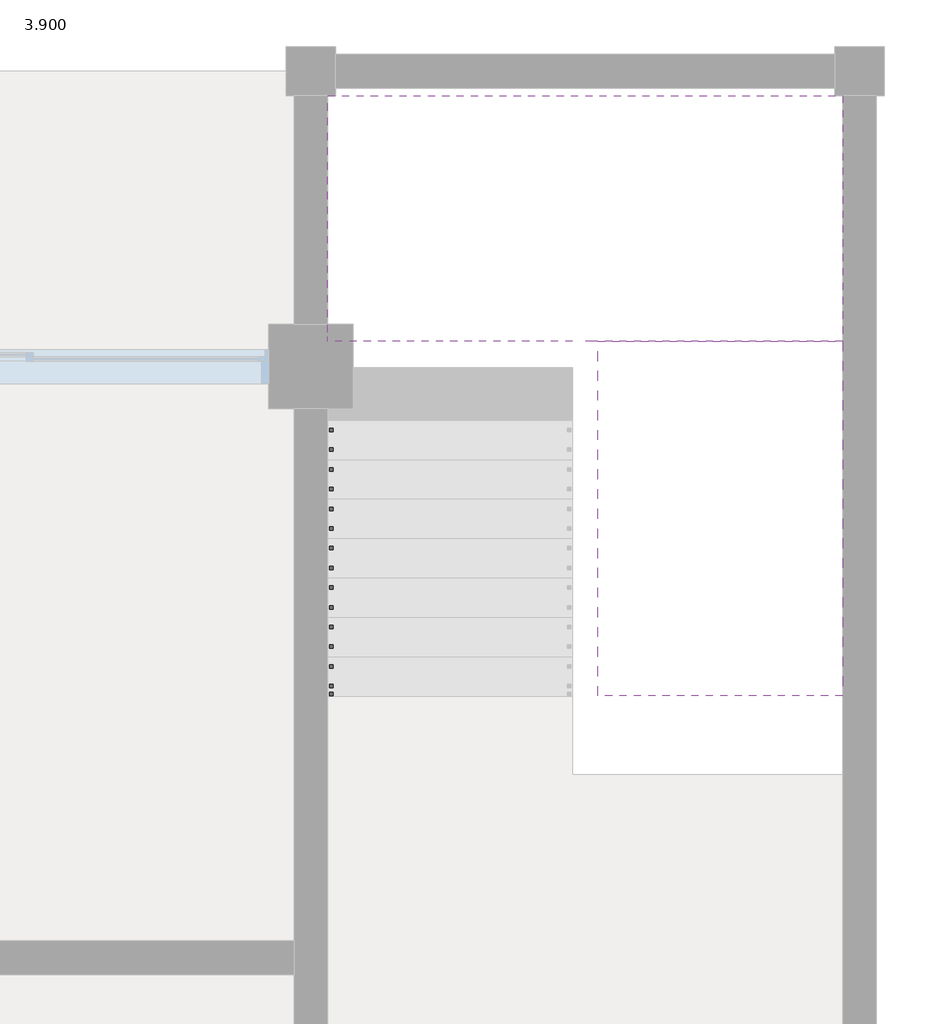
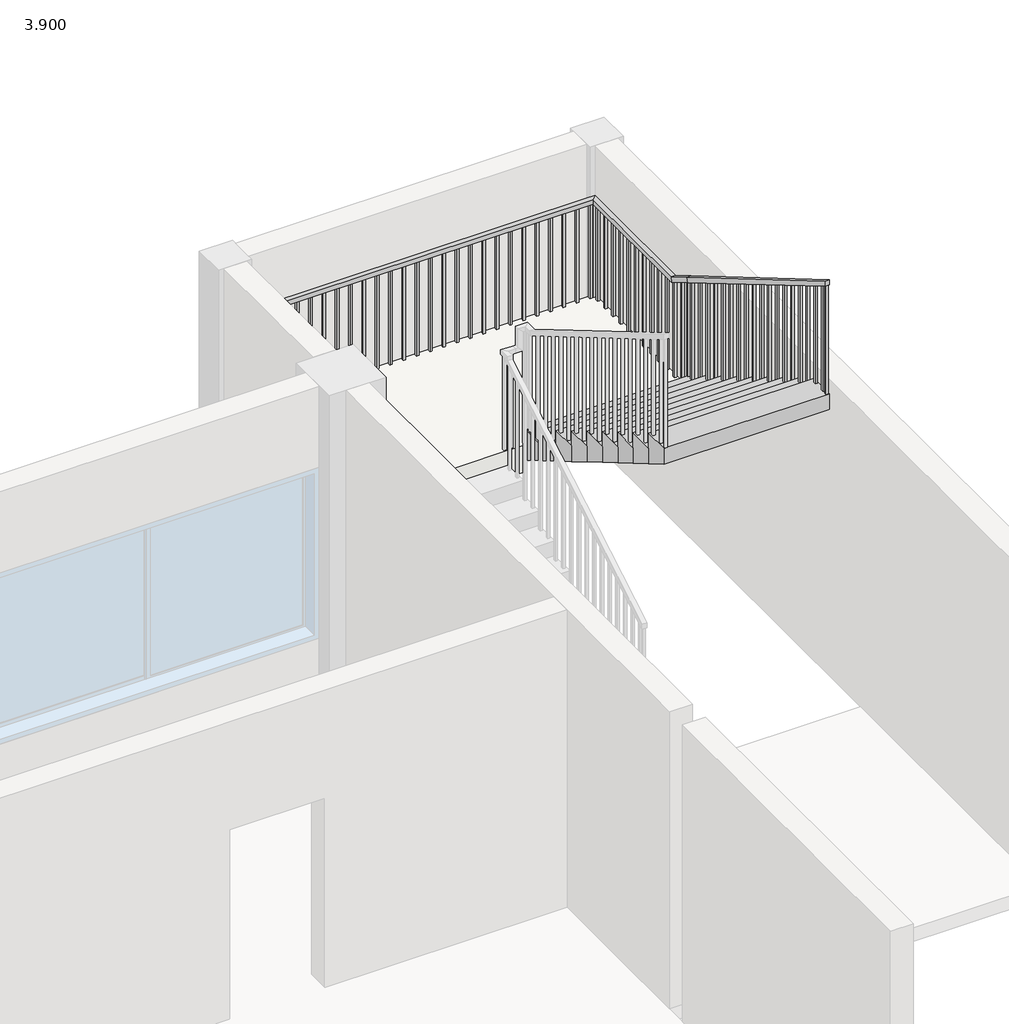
# One storey, part 4 of 4: 1 railing, 1 slab, 1 stair flight.
"""IFC4 building model written with IfcOpenShell, lengths in millimetres."""

from ifc_helpers import new_model, si_unit, frame, origin, place, context, project, spatial, polyline, outline, extrude, faceted_brep, element, save

model = new_model("IFC4")

# Units and contexts
model_context = context("Model", 3, world=origin())
ifc_project = project(units=[si_unit("LENGTHUNIT", "METRE", prefix="MILLI")], contexts=[model_context])

# Site, building, storey
site = spatial("IfcSite", under=ifc_project)
building = spatial("IfcBuilding", under=site)
storey = spatial("IfcBuildingStorey", under=building, Name="3.900", Elevation=3900.0)

# Railing
placement = place(None, origin())
element("IfcRailing", 1, ObjectType="1100mm", at=placement, inside=storey, context=model_context, shape_type="SolidModel", body=[
    faceted_brep([(43253.3890344, 3176.6095817, 5165.0), (43253.3890344, 3176.6095817, 5106.9642857), (43303.3890344, 3176.6095817, 5106.9642857), (43303.3890344, 3176.6095817, 5165.0), (43253.3890344, 5696.6095817, 6650.0), (43253.3890344, 5710.2459454, 6600.0), (43303.3890344, 5710.2459454, 6600.0), (43303.3890344, 5696.6095817, 6650.0), (43253.3890344, 7441.2095817, 6650.0), (43253.3890344, 7441.2095817, 6600.0), (43303.3890344, 7391.2095817, 6600.0), (43303.3890344, 7391.2095817, 6650.0), (46912.5890344, 7441.2095817, 6650.0), (46912.5890344, 7441.2095817, 6600.0), (46862.5890344, 7391.2095817, 6600.0), (46862.5890344, 7391.2095817, 6650.0), (46912.5890344, 5976.6095817, 6650.0), (46912.5890344, 5962.9732181, 6600.0), (46862.5890344, 5962.9732181, 6600.0), (46862.5890344, 5976.6095817, 6650.0), (46912.5890344, 5696.6095817, 6815.0), (46912.5890344, 5671.2249664, 6771.9230769), (46862.5890344, 5671.2249664, 6771.9230769), (46862.5890344, 5696.6095817, 6815.0), (46912.5890344, 3176.6095817, 8300.0), (46862.5890344, 3176.6095817, 8300.0), (46862.5890344, 3176.6095817, 8241.9642857), (46912.5890344, 3176.6095817, 8241.9642857)], [[[0, 1, 2, 3]], [[1, 0, 4, 5]], [[2, 1, 5, 6]], [[3, 2, 6, 7]], [[0, 3, 7, 4]], [[5, 4, 8, 9]], [[6, 5, 9, 10]], [[7, 6, 10, 11]], [[4, 7, 11, 8]], [[9, 8, 12, 13]], [[10, 9, 13, 14]], [[11, 10, 14, 15]], [[8, 11, 15, 12]], [[13, 12, 16, 17]], [[14, 13, 17, 18]], [[15, 14, 18, 19]], [[12, 15, 19, 16]], [[17, 16, 20, 21]], [[18, 17, 21, 22]], [[19, 18, 22, 23]], [[16, 19, 23, 20]], [[24, 25, 26, 27]], [[21, 20, 24, 27]], [[22, 21, 27, 26]], [[23, 22, 26, 25]], [[20, 23, 25, 24]]]),
    extrude(outline(polyline([(3259.1095817, 7035.0), (3234.1095817, 7035.0), (3234.1095817, 8208.0803571), (3259.1095817, 8193.3482143), (3259.1095817, 7035.0)])), frame((46875.0890344, 0.0, 0.0), z_axis=(1.0, 0.0, 0.0), x_axis=(0.0, 1.0, 0.0)), (0.0, 0.0, 1.0), 25.0),
    extrude(outline(polyline([(3399.1095817, 7035.0), (3374.1095817, 7035.0), (3374.1095817, 8125.5803571), (3399.1095817, 8110.8482143), (3399.1095817, 7035.0)])), frame((46875.0890344, 0.0, 0.0), z_axis=(1.0, 0.0, 0.0), x_axis=(0.0, 1.0, 0.0)), (0.0, 0.0, 1.0), 25.0),
    extrude(outline(polyline([(3539.1095817, 6870.0), (3514.1095817, 6870.0), (3514.1095817, 8043.0803571), (3539.1095817, 8028.3482143), (3539.1095817, 6870.0)])), frame((46875.0890344, 0.0, 0.0), z_axis=(1.0, 0.0, 0.0), x_axis=(0.0, 1.0, 0.0)), (0.0, 0.0, 1.0), 25.0),
    extrude(outline(polyline([(3679.1095817, 6870.0), (3654.1095817, 6870.0), (3654.1095817, 7960.5803571), (3679.1095817, 7945.8482143), (3679.1095817, 6870.0)])), frame((46875.0890344, 0.0, 0.0), z_axis=(1.0, 0.0, 0.0), x_axis=(0.0, 1.0, 0.0)), (0.0, 0.0, 1.0), 25.0),
    extrude(outline(polyline([(3819.1095817, 6705.0), (3794.1095817, 6705.0), (3794.1095817, 7878.0803571), (3819.1095817, 7863.3482143), (3819.1095817, 6705.0)])), frame((46875.0890344, 0.0, 0.0), z_axis=(1.0, 0.0, 0.0), x_axis=(0.0, 1.0, 0.0)), (0.0, 0.0, 1.0), 25.0),
    extrude(outline(polyline([(3959.1095817, 6705.0), (3934.1095817, 6705.0), (3934.1095817, 7795.5803571), (3959.1095817, 7780.8482143), (3959.1095817, 6705.0)])), frame((46875.0890344, 0.0, 0.0), z_axis=(1.0, 0.0, 0.0), x_axis=(0.0, 1.0, 0.0)), (0.0, 0.0, 1.0), 25.0),
    extrude(outline(polyline([(4099.1095817, 6540.0), (4074.1095817, 6540.0), (4074.1095817, 7713.0803571), (4099.1095817, 7698.3482143), (4099.1095817, 6540.0)])), frame((46875.0890344, 0.0, 0.0), z_axis=(1.0, 0.0, 0.0), x_axis=(0.0, 1.0, 0.0)), (0.0, 0.0, 1.0), 25.0),
    extrude(outline(polyline([(4239.1095817, 6540.0), (4214.1095817, 6540.0), (4214.1095817, 7630.5803571), (4239.1095817, 7615.8482143), (4239.1095817, 6540.0)])), frame((46875.0890344, 0.0, 0.0), z_axis=(1.0, 0.0, 0.0), x_axis=(0.0, 1.0, 0.0)), (0.0, 0.0, 1.0), 25.0),
    extrude(outline(polyline([(4379.1095817, 6375.0), (4354.1095817, 6375.0), (4354.1095817, 7548.0803571), (4379.1095817, 7533.3482143), (4379.1095817, 6375.0)])), frame((46875.0890344, 0.0, 0.0), z_axis=(1.0, 0.0, 0.0), x_axis=(0.0, 1.0, 0.0)), (0.0, 0.0, 1.0), 25.0),
    extrude(outline(polyline([(4519.1095817, 6375.0), (4494.1095817, 6375.0), (4494.1095817, 7465.5803571), (4519.1095817, 7450.8482143), (4519.1095817, 6375.0)])), frame((46875.0890344, 0.0, 0.0), z_axis=(1.0, 0.0, 0.0), x_axis=(0.0, 1.0, 0.0)), (0.0, 0.0, 1.0), 25.0),
    extrude(outline(polyline([(4659.1095817, 6210.0), (4634.1095817, 6210.0), (4634.1095817, 7383.0803571), (4659.1095817, 7368.3482143), (4659.1095817, 6210.0)])), frame((46875.0890344, 0.0, 0.0), z_axis=(1.0, 0.0, 0.0), x_axis=(0.0, 1.0, 0.0)), (0.0, 0.0, 1.0), 25.0),
    extrude(outline(polyline([(4799.1095817, 6210.0), (4774.1095817, 6210.0), (4774.1095817, 7300.5803571), (4799.1095817, 7285.8482143), (4799.1095817, 6210.0)])), frame((46875.0890344, 0.0, 0.0), z_axis=(1.0, 0.0, 0.0), x_axis=(0.0, 1.0, 0.0)), (0.0, 0.0, 1.0), 25.0),
    extrude(outline(polyline([(4939.1095817, 6045.0), (4914.1095817, 6045.0), (4914.1095817, 7218.0803571), (4939.1095817, 7203.3482143), (4939.1095817, 6045.0)])), frame((46875.0890344, 0.0, 0.0), z_axis=(1.0, 0.0, 0.0), x_axis=(0.0, 1.0, 0.0)), (0.0, 0.0, 1.0), 25.0),
    extrude(outline(polyline([(5079.1095817, 6045.0), (5054.1095817, 6045.0), (5054.1095817, 7135.5803571), (5079.1095817, 7120.8482143), (5079.1095817, 6045.0)])), frame((46875.0890344, 0.0, 0.0), z_axis=(1.0, 0.0, 0.0), x_axis=(0.0, 1.0, 0.0)), (0.0, 0.0, 1.0), 25.0),
    extrude(outline(polyline([(5219.1095817, 5880.0), (5194.1095817, 5880.0), (5194.1095817, 7053.0803571), (5219.1095817, 7038.3482143), (5219.1095817, 5880.0)])), frame((46875.0890344, 0.0, 0.0), z_axis=(1.0, 0.0, 0.0), x_axis=(0.0, 1.0, 0.0)), (0.0, 0.0, 1.0), 25.0),
    extrude(outline(polyline([(5359.1095817, 5880.0), (5334.1095817, 5880.0), (5334.1095817, 6970.5803571), (5359.1095817, 6955.8482143), (5359.1095817, 5880.0)])), frame((46875.0890344, 0.0, 0.0), z_axis=(1.0, 0.0, 0.0), x_axis=(0.0, 1.0, 0.0)), (0.0, 0.0, 1.0), 25.0),
    extrude(outline(polyline([(5499.1095817, 5715.0), (5474.1095817, 5715.0), (5474.1095817, 6888.0803571), (5499.1095817, 6873.3482143), (5499.1095817, 5715.0)])), frame((46875.0890344, 0.0, 0.0), z_axis=(1.0, 0.0, 0.0), x_axis=(0.0, 1.0, 0.0)), (0.0, 0.0, 1.0), 25.0),
    extrude(outline(polyline([(5639.1095817, 5715.0), (5614.1095817, 5715.0), (5614.1095817, 6805.5803571), (5639.1095817, 6790.8482143), (5639.1095817, 5715.0)])), frame((46875.0890344, 0.0, 0.0), z_axis=(1.0, 0.0, 0.0), x_axis=(0.0, 1.0, 0.0)), (0.0, 0.0, 1.0), 25.0),
    extrude(outline(polyline([(5818.7095817, 5550.0), (5793.7095817, 5550.0), (5793.7095817, 6699.7446429), (5818.7095817, 6685.0125), (5818.7095817, 5550.0)])), frame((46875.0890344, 0.0, 0.0), z_axis=(1.0, 0.0, 0.0), x_axis=(0.0, 1.0, 0.0)), (0.0, 0.0, 1.0), 25.0),
    extrude(outline(polyline([(5958.7095817, 5550.0), (5933.7095817, 5550.0), (5933.7095817, 6617.2446429), (5958.7095817, 6602.5125), (5958.7095817, 5550.0)])), frame((46875.0890344, 0.0, 0.0), z_axis=(1.0, 0.0, 0.0), x_axis=(0.0, 1.0, 0.0)), (0.0, 0.0, 1.0), 25.0),
    extrude(outline(polyline([(46900.0890344, 6098.7095817), (46900.0890344, 6073.7095817), (46875.0890344, 6073.7095817), (46875.0890344, 6098.7095817), (46900.0890344, 6098.7095817)])), frame((0.0, 0.0, 5550.0), z_axis=(0.0, 0.0, 1.0), x_axis=(1.0, 0.0, 0.0)), (0.0, 0.0, 1.0), 1050.0),
    extrude(outline(polyline([(46900.0890344, 6238.7095817), (46900.0890344, 6213.7095817), (46875.0890344, 6213.7095817), (46875.0890344, 6238.7095817), (46900.0890344, 6238.7095817)])), frame((0.0, 0.0, 5550.0), z_axis=(0.0, 0.0, 1.0), x_axis=(1.0, 0.0, 0.0)), (0.0, 0.0, 1.0), 1050.0),
    extrude(outline(polyline([(46900.0890344, 6378.7095817), (46900.0890344, 6353.7095817), (46875.0890344, 6353.7095817), (46875.0890344, 6378.7095817), (46900.0890344, 6378.7095817)])), frame((0.0, 0.0, 5550.0), z_axis=(0.0, 0.0, 1.0), x_axis=(1.0, 0.0, 0.0)), (0.0, 0.0, 1.0), 1050.0),
    extrude(outline(polyline([(46900.0890344, 6518.7095817), (46900.0890344, 6493.7095817), (46875.0890344, 6493.7095817), (46875.0890344, 6518.7095817), (46900.0890344, 6518.7095817)])), frame((0.0, 0.0, 5550.0), z_axis=(0.0, 0.0, 1.0), x_axis=(1.0, 0.0, 0.0)), (0.0, 0.0, 1.0), 1050.0),
    extrude(outline(polyline([(46900.0890344, 6658.7095817), (46900.0890344, 6633.7095817), (46875.0890344, 6633.7095817), (46875.0890344, 6658.7095817), (46900.0890344, 6658.7095817)])), frame((0.0, 0.0, 5550.0), z_axis=(0.0, 0.0, 1.0), x_axis=(1.0, 0.0, 0.0)), (0.0, 0.0, 1.0), 1050.0),
    extrude(outline(polyline([(46900.0890344, 6798.7095817), (46900.0890344, 6773.7095817), (46875.0890344, 6773.7095817), (46875.0890344, 6798.7095817), (46900.0890344, 6798.7095817)])), frame((0.0, 0.0, 5550.0), z_axis=(0.0, 0.0, 1.0), x_axis=(1.0, 0.0, 0.0)), (0.0, 0.0, 1.0), 1050.0),
    extrude(outline(polyline([(46900.0890344, 6938.7095817), (46900.0890344, 6913.7095817), (46875.0890344, 6913.7095817), (46875.0890344, 6938.7095817), (46900.0890344, 6938.7095817)])), frame((0.0, 0.0, 5550.0), z_axis=(0.0, 0.0, 1.0), x_axis=(1.0, 0.0, 0.0)), (0.0, 0.0, 1.0), 1050.0),
    extrude(outline(polyline([(46900.0890344, 7078.7095817), (46900.0890344, 7053.7095817), (46875.0890344, 7053.7095817), (46875.0890344, 7078.7095817), (46900.0890344, 7078.7095817)])), frame((0.0, 0.0, 5550.0), z_axis=(0.0, 0.0, 1.0), x_axis=(1.0, 0.0, 0.0)), (0.0, 0.0, 1.0), 1050.0),
    extrude(outline(polyline([(46900.0890344, 7218.7095817), (46900.0890344, 7193.7095817), (46875.0890344, 7193.7095817), (46875.0890344, 7218.7095817), (46900.0890344, 7218.7095817)])), frame((0.0, 0.0, 5550.0), z_axis=(0.0, 0.0, 1.0), x_axis=(1.0, 0.0, 0.0)), (0.0, 0.0, 1.0), 1050.0),
    extrude(outline(polyline([(46900.0890344, 7358.7095817), (46900.0890344, 7333.7095817), (46875.0890344, 7333.7095817), (46875.0890344, 7358.7095817), (46900.0890344, 7358.7095817)])), frame((0.0, 0.0, 5550.0), z_axis=(0.0, 0.0, 1.0), x_axis=(1.0, 0.0, 0.0)), (0.0, 0.0, 1.0), 1050.0),
    extrude(outline(polyline([(46835.8890344, 7428.7095817), (46860.8890344, 7428.7095817), (46860.8890344, 7403.7095817), (46835.8890344, 7403.7095817), (46835.8890344, 7428.7095817)])), frame((0.0, 0.0, 5550.0), z_axis=(0.0, 0.0, 1.0), x_axis=(1.0, 0.0, 0.0)), (0.0, 0.0, 1.0), 1050.0),
    extrude(outline(polyline([(46695.8890344, 7428.7095817), (46720.8890344, 7428.7095817), (46720.8890344, 7403.7095817), (46695.8890344, 7403.7095817), (46695.8890344, 7428.7095817)])), frame((0.0, 0.0, 5550.0), z_axis=(0.0, 0.0, 1.0), x_axis=(1.0, 0.0, 0.0)), (0.0, 0.0, 1.0), 1050.0),
    extrude(outline(polyline([(46555.8890344, 7428.7095817), (46580.8890344, 7428.7095817), (46580.8890344, 7403.7095817), (46555.8890344, 7403.7095817), (46555.8890344, 7428.7095817)])), frame((0.0, 0.0, 5550.0), z_axis=(0.0, 0.0, 1.0), x_axis=(1.0, 0.0, 0.0)), (0.0, 0.0, 1.0), 1050.0),
    extrude(outline(polyline([(46415.8890344, 7428.7095817), (46440.8890344, 7428.7095817), (46440.8890344, 7403.7095817), (46415.8890344, 7403.7095817), (46415.8890344, 7428.7095817)])), frame((0.0, 0.0, 5550.0), z_axis=(0.0, 0.0, 1.0), x_axis=(1.0, 0.0, 0.0)), (0.0, 0.0, 1.0), 1050.0),
    extrude(outline(polyline([(46275.8890344, 7428.7095817), (46300.8890344, 7428.7095817), (46300.8890344, 7403.7095817), (46275.8890344, 7403.7095817), (46275.8890344, 7428.7095817)])), frame((0.0, 0.0, 5550.0), z_axis=(0.0, 0.0, 1.0), x_axis=(1.0, 0.0, 0.0)), (0.0, 0.0, 1.0), 1050.0),
    extrude(outline(polyline([(46135.8890344, 7428.7095817), (46160.8890344, 7428.7095817), (46160.8890344, 7403.7095817), (46135.8890344, 7403.7095817), (46135.8890344, 7428.7095817)])), frame((0.0, 0.0, 5550.0), z_axis=(0.0, 0.0, 1.0), x_axis=(1.0, 0.0, 0.0)), (0.0, 0.0, 1.0), 1050.0),
    extrude(outline(polyline([(45995.8890344, 7428.7095817), (46020.8890344, 7428.7095817), (46020.8890344, 7403.7095817), (45995.8890344, 7403.7095817), (45995.8890344, 7428.7095817)])), frame((0.0, 0.0, 5550.0), z_axis=(0.0, 0.0, 1.0), x_axis=(1.0, 0.0, 0.0)), (0.0, 0.0, 1.0), 1050.0),
    extrude(outline(polyline([(45855.8890344, 7428.7095817), (45880.8890344, 7428.7095817), (45880.8890344, 7403.7095817), (45855.8890344, 7403.7095817), (45855.8890344, 7428.7095817)])), frame((0.0, 0.0, 5550.0), z_axis=(0.0, 0.0, 1.0), x_axis=(1.0, 0.0, 0.0)), (0.0, 0.0, 1.0), 1050.0),
    extrude(outline(polyline([(45715.8890344, 7428.7095817), (45740.8890344, 7428.7095817), (45740.8890344, 7403.7095817), (45715.8890344, 7403.7095817), (45715.8890344, 7428.7095817)])), frame((0.0, 0.0, 5550.0), z_axis=(0.0, 0.0, 1.0), x_axis=(1.0, 0.0, 0.0)), (0.0, 0.0, 1.0), 1050.0),
    extrude(outline(polyline([(45575.8890344, 7428.7095817), (45600.8890344, 7428.7095817), (45600.8890344, 7403.7095817), (45575.8890344, 7403.7095817), (45575.8890344, 7428.7095817)])), frame((0.0, 0.0, 5550.0), z_axis=(0.0, 0.0, 1.0), x_axis=(1.0, 0.0, 0.0)), (0.0, 0.0, 1.0), 1050.0),
    extrude(outline(polyline([(45435.8890344, 7428.7095817), (45460.8890344, 7428.7095817), (45460.8890344, 7403.7095817), (45435.8890344, 7403.7095817), (45435.8890344, 7428.7095817)])), frame((0.0, 0.0, 5550.0), z_axis=(0.0, 0.0, 1.0), x_axis=(1.0, 0.0, 0.0)), (0.0, 0.0, 1.0), 1050.0),
    extrude(outline(polyline([(45295.8890344, 7428.7095817), (45320.8890344, 7428.7095817), (45320.8890344, 7403.7095817), (45295.8890344, 7403.7095817), (45295.8890344, 7428.7095817)])), frame((0.0, 0.0, 5550.0), z_axis=(0.0, 0.0, 1.0), x_axis=(1.0, 0.0, 0.0)), (0.0, 0.0, 1.0), 1050.0),
    extrude(outline(polyline([(45155.8890344, 7428.7095817), (45180.8890344, 7428.7095817), (45180.8890344, 7403.7095817), (45155.8890344, 7403.7095817), (45155.8890344, 7428.7095817)])), frame((0.0, 0.0, 5550.0), z_axis=(0.0, 0.0, 1.0), x_axis=(1.0, 0.0, 0.0)), (0.0, 0.0, 1.0), 1050.0),
    extrude(outline(polyline([(45015.8890344, 7428.7095817), (45040.8890344, 7428.7095817), (45040.8890344, 7403.7095817), (45015.8890344, 7403.7095817), (45015.8890344, 7428.7095817)])), frame((0.0, 0.0, 5550.0), z_axis=(0.0, 0.0, 1.0), x_axis=(1.0, 0.0, 0.0)), (0.0, 0.0, 1.0), 1050.0),
    extrude(outline(polyline([(44875.8890344, 7428.7095817), (44900.8890344, 7428.7095817), (44900.8890344, 7403.7095817), (44875.8890344, 7403.7095817), (44875.8890344, 7428.7095817)])), frame((0.0, 0.0, 5550.0), z_axis=(0.0, 0.0, 1.0), x_axis=(1.0, 0.0, 0.0)), (0.0, 0.0, 1.0), 1050.0),
    extrude(outline(polyline([(44735.8890344, 7428.7095817), (44760.8890344, 7428.7095817), (44760.8890344, 7403.7095817), (44735.8890344, 7403.7095817), (44735.8890344, 7428.7095817)])), frame((0.0, 0.0, 5550.0), z_axis=(0.0, 0.0, 1.0), x_axis=(1.0, 0.0, 0.0)), (0.0, 0.0, 1.0), 1050.0),
    extrude(outline(polyline([(44595.8890344, 7428.7095817), (44620.8890344, 7428.7095817), (44620.8890344, 7403.7095817), (44595.8890344, 7403.7095817), (44595.8890344, 7428.7095817)])), frame((0.0, 0.0, 5550.0), z_axis=(0.0, 0.0, 1.0), x_axis=(1.0, 0.0, 0.0)), (0.0, 0.0, 1.0), 1050.0),
    extrude(outline(polyline([(44455.8890344, 7428.7095817), (44480.8890344, 7428.7095817), (44480.8890344, 7403.7095817), (44455.8890344, 7403.7095817), (44455.8890344, 7428.7095817)])), frame((0.0, 0.0, 5550.0), z_axis=(0.0, 0.0, 1.0), x_axis=(1.0, 0.0, 0.0)), (0.0, 0.0, 1.0), 1050.0),
    extrude(outline(polyline([(44315.8890344, 7428.7095817), (44340.8890344, 7428.7095817), (44340.8890344, 7403.7095817), (44315.8890344, 7403.7095817), (44315.8890344, 7428.7095817)])), frame((0.0, 0.0, 5550.0), z_axis=(0.0, 0.0, 1.0), x_axis=(1.0, 0.0, 0.0)), (0.0, 0.0, 1.0), 1050.0),
    extrude(outline(polyline([(44175.8890344, 7428.7095817), (44200.8890344, 7428.7095817), (44200.8890344, 7403.7095817), (44175.8890344, 7403.7095817), (44175.8890344, 7428.7095817)])), frame((0.0, 0.0, 5550.0), z_axis=(0.0, 0.0, 1.0), x_axis=(1.0, 0.0, 0.0)), (0.0, 0.0, 1.0), 1050.0),
    extrude(outline(polyline([(44035.8890344, 7428.7095817), (44060.8890344, 7428.7095817), (44060.8890344, 7403.7095817), (44035.8890344, 7403.7095817), (44035.8890344, 7428.7095817)])), frame((0.0, 0.0, 5550.0), z_axis=(0.0, 0.0, 1.0), x_axis=(1.0, 0.0, 0.0)), (0.0, 0.0, 1.0), 1050.0),
    extrude(outline(polyline([(43895.8890344, 7428.7095817), (43920.8890344, 7428.7095817), (43920.8890344, 7403.7095817), (43895.8890344, 7403.7095817), (43895.8890344, 7428.7095817)])), frame((0.0, 0.0, 5550.0), z_axis=(0.0, 0.0, 1.0), x_axis=(1.0, 0.0, 0.0)), (0.0, 0.0, 1.0), 1050.0),
    extrude(outline(polyline([(43755.8890344, 7428.7095817), (43780.8890344, 7428.7095817), (43780.8890344, 7403.7095817), (43755.8890344, 7403.7095817), (43755.8890344, 7428.7095817)])), frame((0.0, 0.0, 5550.0), z_axis=(0.0, 0.0, 1.0), x_axis=(1.0, 0.0, 0.0)), (0.0, 0.0, 1.0), 1050.0),
    extrude(outline(polyline([(43615.8890344, 7428.7095817), (43640.8890344, 7428.7095817), (43640.8890344, 7403.7095817), (43615.8890344, 7403.7095817), (43615.8890344, 7428.7095817)])), frame((0.0, 0.0, 5550.0), z_axis=(0.0, 0.0, 1.0), x_axis=(1.0, 0.0, 0.0)), (0.0, 0.0, 1.0), 1050.0),
    extrude(outline(polyline([(43475.8890344, 7428.7095817), (43500.8890344, 7428.7095817), (43500.8890344, 7403.7095817), (43475.8890344, 7403.7095817), (43475.8890344, 7428.7095817)])), frame((0.0, 0.0, 5550.0), z_axis=(0.0, 0.0, 1.0), x_axis=(1.0, 0.0, 0.0)), (0.0, 0.0, 1.0), 1050.0),
    extrude(outline(polyline([(43335.8890344, 7428.7095817), (43360.8890344, 7428.7095817), (43360.8890344, 7403.7095817), (43335.8890344, 7403.7095817), (43335.8890344, 7428.7095817)])), frame((0.0, 0.0, 5550.0), z_axis=(0.0, 0.0, 1.0), x_axis=(1.0, 0.0, 0.0)), (0.0, 0.0, 1.0), 1050.0),
    extrude(outline(polyline([(43265.8890344, 7294.1095817), (43265.8890344, 7319.1095817), (43290.8890344, 7319.1095817), (43290.8890344, 7294.1095817), (43265.8890344, 7294.1095817)])), frame((0.0, 0.0, 5550.0), z_axis=(0.0, 0.0, 1.0), x_axis=(1.0, 0.0, 0.0)), (0.0, 0.0, 1.0), 1050.0),
    extrude(outline(polyline([(43265.8890344, 7154.1095817), (43265.8890344, 7179.1095817), (43290.8890344, 7179.1095817), (43290.8890344, 7154.1095817), (43265.8890344, 7154.1095817)])), frame((0.0, 0.0, 5550.0), z_axis=(0.0, 0.0, 1.0), x_axis=(1.0, 0.0, 0.0)), (0.0, 0.0, 1.0), 1050.0),
    extrude(outline(polyline([(43265.8890344, 7014.1095817), (43265.8890344, 7039.1095817), (43290.8890344, 7039.1095817), (43290.8890344, 7014.1095817), (43265.8890344, 7014.1095817)])), frame((0.0, 0.0, 5550.0), z_axis=(0.0, 0.0, 1.0), x_axis=(1.0, 0.0, 0.0)), (0.0, 0.0, 1.0), 1050.0),
    extrude(outline(polyline([(43265.8890344, 6874.1095817), (43265.8890344, 6899.1095817), (43290.8890344, 6899.1095817), (43290.8890344, 6874.1095817), (43265.8890344, 6874.1095817)])), frame((0.0, 0.0, 5550.0), z_axis=(0.0, 0.0, 1.0), x_axis=(1.0, 0.0, 0.0)), (0.0, 0.0, 1.0), 1050.0),
    extrude(outline(polyline([(43265.8890344, 6734.1095817), (43265.8890344, 6759.1095817), (43290.8890344, 6759.1095817), (43290.8890344, 6734.1095817), (43265.8890344, 6734.1095817)])), frame((0.0, 0.0, 5550.0), z_axis=(0.0, 0.0, 1.0), x_axis=(1.0, 0.0, 0.0)), (0.0, 0.0, 1.0), 1050.0),
    extrude(outline(polyline([(43265.8890344, 6594.1095817), (43265.8890344, 6619.1095817), (43290.8890344, 6619.1095817), (43290.8890344, 6594.1095817), (43265.8890344, 6594.1095817)])), frame((0.0, 0.0, 5550.0), z_axis=(0.0, 0.0, 1.0), x_axis=(1.0, 0.0, 0.0)), (0.0, 0.0, 1.0), 1050.0),
    extrude(outline(polyline([(43265.8890344, 6454.1095817), (43265.8890344, 6479.1095817), (43290.8890344, 6479.1095817), (43290.8890344, 6454.1095817), (43265.8890344, 6454.1095817)])), frame((0.0, 0.0, 5550.0), z_axis=(0.0, 0.0, 1.0), x_axis=(1.0, 0.0, 0.0)), (0.0, 0.0, 1.0), 1050.0),
    extrude(outline(polyline([(43265.8890344, 6314.1095817), (43265.8890344, 6339.1095817), (43290.8890344, 6339.1095817), (43290.8890344, 6314.1095817), (43265.8890344, 6314.1095817)])), frame((0.0, 0.0, 5550.0), z_axis=(0.0, 0.0, 1.0), x_axis=(1.0, 0.0, 0.0)), (0.0, 0.0, 1.0), 1050.0),
    extrude(outline(polyline([(43265.8890344, 6174.1095817), (43265.8890344, 6199.1095817), (43290.8890344, 6199.1095817), (43290.8890344, 6174.1095817), (43265.8890344, 6174.1095817)])), frame((0.0, 0.0, 5550.0), z_axis=(0.0, 0.0, 1.0), x_axis=(1.0, 0.0, 0.0)), (0.0, 0.0, 1.0), 1050.0),
    extrude(outline(polyline([(43265.8890344, 6034.1095817), (43265.8890344, 6059.1095817), (43290.8890344, 6059.1095817), (43290.8890344, 6034.1095817), (43265.8890344, 6034.1095817)])), frame((0.0, 0.0, 5550.0), z_axis=(0.0, 0.0, 1.0), x_axis=(1.0, 0.0, 0.0)), (0.0, 0.0, 1.0), 1050.0),
    extrude(outline(polyline([(43265.8890344, 5894.1095817), (43265.8890344, 5919.1095817), (43290.8890344, 5919.1095817), (43290.8890344, 5894.1095817), (43265.8890344, 5894.1095817)])), frame((0.0, 0.0, 5550.0), z_axis=(0.0, 0.0, 1.0), x_axis=(1.0, 0.0, 0.0)), (0.0, 0.0, 1.0), 1050.0),
    extrude(outline(polyline([(43265.8890344, 5754.1095817), (43265.8890344, 5779.1095817), (43290.8890344, 5779.1095817), (43290.8890344, 5754.1095817), (43265.8890344, 5754.1095817)])), frame((0.0, 0.0, 5550.0), z_axis=(0.0, 0.0, 1.0), x_axis=(1.0, 0.0, 0.0)), (0.0, 0.0, 1.0), 1050.0),
    extrude(outline(polyline([(5614.1095817, 6543.3482143), (5639.1095817, 6558.0803571), (5639.1095817, 5385.0), (5614.1095817, 5385.0), (5614.1095817, 6543.3482143)])), frame((43265.8890344, 0.0, 0.0), z_axis=(1.0, 0.0, 0.0), x_axis=(0.0, 1.0, 0.0)), (0.0, 0.0, 1.0), 25.0),
    extrude(outline(polyline([(5474.1095817, 6460.8482143), (5499.1095817, 6475.5803571), (5499.1095817, 5385.0), (5474.1095817, 5385.0), (5474.1095817, 6460.8482143)])), frame((43265.8890344, 0.0, 0.0), z_axis=(1.0, 0.0, 0.0), x_axis=(0.0, 1.0, 0.0)), (0.0, 0.0, 1.0), 25.0),
    extrude(outline(polyline([(5334.1095817, 6378.3482143), (5359.1095817, 6393.0803571), (5359.1095817, 5220.0), (5334.1095817, 5220.0), (5334.1095817, 6378.3482143)])), frame((43265.8890344, 0.0, 0.0), z_axis=(1.0, 0.0, 0.0), x_axis=(0.0, 1.0, 0.0)), (0.0, 0.0, 1.0), 25.0),
    extrude(outline(polyline([(5194.1095817, 6295.8482143), (5219.1095817, 6310.5803571), (5219.1095817, 5220.0), (5194.1095817, 5220.0), (5194.1095817, 6295.8482143)])), frame((43265.8890344, 0.0, 0.0), z_axis=(1.0, 0.0, 0.0), x_axis=(0.0, 1.0, 0.0)), (0.0, 0.0, 1.0), 25.0),
    extrude(outline(polyline([(5054.1095817, 6213.3482143), (5079.1095817, 6228.0803571), (5079.1095817, 5055.0), (5054.1095817, 5055.0), (5054.1095817, 6213.3482143)])), frame((43265.8890344, 0.0, 0.0), z_axis=(1.0, 0.0, 0.0), x_axis=(0.0, 1.0, 0.0)), (0.0, 0.0, 1.0), 25.0),
    extrude(outline(polyline([(4914.1095817, 6130.8482143), (4939.1095817, 6145.5803571), (4939.1095817, 5055.0), (4914.1095817, 5055.0), (4914.1095817, 6130.8482143)])), frame((43265.8890344, 0.0, 0.0), z_axis=(1.0, 0.0, 0.0), x_axis=(0.0, 1.0, 0.0)), (0.0, 0.0, 1.0), 25.0),
    extrude(outline(polyline([(4774.1095817, 6048.3482143), (4799.1095817, 6063.0803571), (4799.1095817, 4890.0), (4774.1095817, 4890.0), (4774.1095817, 6048.3482143)])), frame((43265.8890344, 0.0, 0.0), z_axis=(1.0, 0.0, 0.0), x_axis=(0.0, 1.0, 0.0)), (0.0, 0.0, 1.0), 25.0),
    extrude(outline(polyline([(4634.1095817, 5965.8482143), (4659.1095817, 5980.5803571), (4659.1095817, 4890.0), (4634.1095817, 4890.0), (4634.1095817, 5965.8482143)])), frame((43265.8890344, 0.0, 0.0), z_axis=(1.0, 0.0, 0.0), x_axis=(0.0, 1.0, 0.0)), (0.0, 0.0, 1.0), 25.0),
    extrude(outline(polyline([(4494.1095817, 5883.3482143), (4519.1095817, 5898.0803571), (4519.1095817, 4725.0), (4494.1095817, 4725.0), (4494.1095817, 5883.3482143)])), frame((43265.8890344, 0.0, 0.0), z_axis=(1.0, 0.0, 0.0), x_axis=(0.0, 1.0, 0.0)), (0.0, 0.0, 1.0), 25.0),
    extrude(outline(polyline([(4354.1095817, 5800.8482143), (4379.1095817, 5815.5803571), (4379.1095817, 4725.0), (4354.1095817, 4725.0), (4354.1095817, 5800.8482143)])), frame((43265.8890344, 0.0, 0.0), z_axis=(1.0, 0.0, 0.0), x_axis=(0.0, 1.0, 0.0)), (0.0, 0.0, 1.0), 25.0),
    extrude(outline(polyline([(4214.1095817, 5718.3482143), (4239.1095817, 5733.0803571), (4239.1095817, 4560.0), (4214.1095817, 4560.0), (4214.1095817, 5718.3482143)])), frame((43265.8890344, 0.0, 0.0), z_axis=(1.0, 0.0, 0.0), x_axis=(0.0, 1.0, 0.0)), (0.0, 0.0, 1.0), 25.0),
    extrude(outline(polyline([(4074.1095817, 5635.8482143), (4099.1095817, 5650.5803571), (4099.1095817, 4560.0), (4074.1095817, 4560.0), (4074.1095817, 5635.8482143)])), frame((43265.8890344, 0.0, 0.0), z_axis=(1.0, 0.0, 0.0), x_axis=(0.0, 1.0, 0.0)), (0.0, 0.0, 1.0), 25.0),
    extrude(outline(polyline([(3934.1095817, 5553.3482143), (3959.1095817, 5568.0803571), (3959.1095817, 4395.0), (3934.1095817, 4395.0), (3934.1095817, 5553.3482143)])), frame((43265.8890344, 0.0, 0.0), z_axis=(1.0, 0.0, 0.0), x_axis=(0.0, 1.0, 0.0)), (0.0, 0.0, 1.0), 25.0),
    extrude(outline(polyline([(3794.1095817, 5470.8482143), (3819.1095817, 5485.5803571), (3819.1095817, 4395.0), (3794.1095817, 4395.0), (3794.1095817, 5470.8482143)])), frame((43265.8890344, 0.0, 0.0), z_axis=(1.0, 0.0, 0.0), x_axis=(0.0, 1.0, 0.0)), (0.0, 0.0, 1.0), 25.0),
    extrude(outline(polyline([(3654.1095817, 5388.3482143), (3679.1095817, 5403.0803571), (3679.1095817, 4230.0), (3654.1095817, 4230.0), (3654.1095817, 5388.3482143)])), frame((43265.8890344, 0.0, 0.0), z_axis=(1.0, 0.0, 0.0), x_axis=(0.0, 1.0, 0.0)), (0.0, 0.0, 1.0), 25.0),
    extrude(outline(polyline([(3514.1095817, 5305.8482143), (3539.1095817, 5320.5803571), (3539.1095817, 4230.0), (3514.1095817, 4230.0), (3514.1095817, 5305.8482143)])), frame((43265.8890344, 0.0, 0.0), z_axis=(1.0, 0.0, 0.0), x_axis=(0.0, 1.0, 0.0)), (0.0, 0.0, 1.0), 25.0),
    extrude(outline(polyline([(3374.1095817, 5223.3482143), (3399.1095817, 5238.0803571), (3399.1095817, 4065.0), (3374.1095817, 4065.0), (3374.1095817, 5223.3482143)])), frame((43265.8890344, 0.0, 0.0), z_axis=(1.0, 0.0, 0.0), x_axis=(0.0, 1.0, 0.0)), (0.0, 0.0, 1.0), 25.0),
    extrude(outline(polyline([(3234.1095817, 5140.8482143), (3259.1095817, 5155.5803571), (3259.1095817, 4065.0), (3234.1095817, 4065.0), (3234.1095817, 5140.8482143)])), frame((43265.8890344, 0.0, 0.0), z_axis=(1.0, 0.0, 0.0), x_axis=(0.0, 1.0, 0.0)), (0.0, 0.0, 1.0), 25.0),
    extrude(outline(polyline([(5709.1095817, 5550.0), (5684.1095817, 5550.0), (5684.1095817, 6764.3303571), (5709.1095817, 6749.5982143), (5709.1095817, 5550.0)])), frame((46875.0890344, 0.0, 0.0), z_axis=(1.0, 0.0, 0.0), x_axis=(0.0, 1.0, 0.0)), (0.0, 0.0, 1.0), 25.0),
    extrude(outline(polyline([(46875.0890344, 7428.7095817), (46900.0890344, 7428.7095817), (46900.0890344, 7403.7095817), (46875.0890344, 7403.7095817), (46875.0890344, 7428.7095817)])), frame((0.0, 0.0, 5550.0), z_axis=(0.0, 0.0, 1.0), x_axis=(1.0, 0.0, 0.0)), (0.0, 0.0, 1.0), 1050.0),
    extrude(outline(polyline([(43265.8890344, 7403.7095817), (43265.8890344, 7428.7095817), (43290.8890344, 7428.7095817), (43290.8890344, 7403.7095817), (43265.8890344, 7403.7095817)])), frame((0.0, 0.0, 5550.0), z_axis=(0.0, 0.0, 1.0), x_axis=(1.0, 0.0, 0.0)), (0.0, 0.0, 1.0), 1050.0),
    extrude(outline(polyline([(5684.1095817, 6584.5982143), (5709.1095817, 6599.3303571), (5709.1095817, 5550.0), (5684.1095817, 5550.0), (5684.1095817, 6584.5982143)])), frame((43265.8890344, 0.0, 0.0), z_axis=(1.0, 0.0, 0.0), x_axis=(0.0, 1.0, 0.0)), (0.0, 0.0, 1.0), 25.0),
    extrude(outline(polyline([(3201.6095817, 7035.0), (3176.6095817, 7035.0), (3176.6095817, 8241.9642857), (3201.6095817, 8227.2321429), (3201.6095817, 7035.0)])), frame((46875.0890344, 0.0, 0.0), z_axis=(1.0, 0.0, 0.0), x_axis=(0.0, 1.0, 0.0)), (0.0, 0.0, 1.0), 25.0),
    extrude(outline(polyline([(3176.6095817, 5106.9642857), (3201.6095817, 5121.6964286), (3201.6095817, 4065.0), (3176.6095817, 4065.0), (3176.6095817, 5106.9642857)])), frame((43265.8890344, 0.0, 0.0), z_axis=(1.0, 0.0, 0.0), x_axis=(0.0, 1.0, 0.0)), (0.0, 0.0, 1.0), 25.0),
])

# Slab
element("IfcSlab", 2, ObjectType="300mm 厚度", at=placement, inside=storey, context=model_context, shape_type="Brep", body=[
    faceted_brep([(43252.9890344, 5696.6095817, 5550.0), (44992.9890344, 5696.6095817, 5550.0), (45172.9890344, 5696.6095817, 5550.0), (46912.9890344, 5696.6095817, 5550.0), (46912.9890344, 5910.2459454, 5550.0), (46912.9890344, 7441.6095817, 5550.0), (43252.9890344, 7441.6095817, 5550.0), (43252.9890344, 5762.9732181, 5550.0), (43252.9890344, 5696.6095817, 5385.0), (43252.9890344, 5696.6095817, 5210.8928571), (44992.9890344, 5696.6095817, 5210.8928571), (44992.9890344, 5696.6095817, 5250.0), (45172.9890344, 5696.6095817, 5250.0), (45172.9890344, 5696.6095817, 5375.8928571), (46912.9890344, 5696.6095817, 5375.8928571), (46912.9890344, 5910.2459454, 5250.0), (46912.9890344, 7441.6095817, 5250.0), (43252.9890344, 7441.6095817, 5250.0), (43252.9890344, 5762.9732181, 5250.0), (45172.9890344, 5910.2459454, 5250.0), (44992.9890344, 5762.9732181, 5250.0)], [[[0, 1, 2, 3, 4, 5, 6, 7]], [[1, 0, 8, 9, 10, 11]], [[2, 1, 11, 12, 13]], [[3, 2, 13, 14]], [[3, 14, 15, 16, 5, 4]], [[6, 5, 16, 17]], [[9, 8, 0, 7, 6, 17, 18]], [[19, 12, 11, 20, 18, 17, 16, 15]], [[12, 19, 13]], [[18, 20, 10, 9]], [[20, 11, 10]], [[19, 15, 14, 13]]]),
])

# Stair flight
element("IfcStairFlight", 3, ObjectType="150mm 结构深度", at=placement, inside=storey, context=model_context, shape_type="Brep", body=[
    faceted_brep([(46912.9890344, 5416.6095817, 5715.0), (46912.9890344, 5696.6095817, 5715.0), (45172.9890344, 5696.6095817, 5715.0), (45172.9890344, 5416.6095817, 5715.0), (46912.9890344, 5416.6095817, 5540.8928571), (46912.9890344, 5696.6095817, 5375.8928571), (46912.9890344, 5696.6095817, 5550.0), (45172.9890344, 5696.6095817, 5375.8928571), (45172.9890344, 5416.6095817, 5540.8928571), (46912.9890344, 5136.6095817, 5880.0), (46912.9890344, 5416.6095817, 5880.0), (45172.9890344, 5416.6095817, 5880.0), (45172.9890344, 5136.6095817, 5880.0), (46912.9890344, 5136.6095817, 5705.8928571), (45172.9890344, 5136.6095817, 5705.8928571), (46912.9890344, 4856.6095817, 6045.0), (46912.9890344, 5136.6095817, 6045.0), (45172.9890344, 5136.6095817, 6045.0), (45172.9890344, 4856.6095817, 6045.0), (46912.9890344, 4856.6095817, 5870.8928571), (45172.9890344, 4856.6095817, 5870.8928571), (46912.9890344, 4576.6095817, 6210.0), (46912.9890344, 4856.6095817, 6210.0), (45172.9890344, 4856.6095817, 6210.0), (45172.9890344, 4576.6095817, 6210.0), (46912.9890344, 4576.6095817, 6035.8928571), (45172.9890344, 4576.6095817, 6035.8928571), (46912.9890344, 4296.6095817, 6375.0), (46912.9890344, 4576.6095817, 6375.0), (45172.9890344, 4576.6095817, 6375.0), (45172.9890344, 4296.6095817, 6375.0), (46912.9890344, 4296.6095817, 6200.8928571), (45172.9890344, 4296.6095817, 6200.8928571), (46912.9890344, 4016.6095817, 6540.0), (46912.9890344, 4296.6095817, 6540.0), (45172.9890344, 4296.6095817, 6540.0), (45172.9890344, 4016.6095817, 6540.0), (46912.9890344, 4016.6095817, 6365.8928571), (45172.9890344, 4016.6095817, 6365.8928571), (46912.9890344, 3736.6095817, 6705.0), (46912.9890344, 4016.6095817, 6705.0), (45172.9890344, 4016.6095817, 6705.0), (45172.9890344, 3736.6095817, 6705.0), (46912.9890344, 3736.6095817, 6530.8928571), (45172.9890344, 3736.6095817, 6530.8928571), (46912.9890344, 3456.6095817, 6870.0), (46912.9890344, 3736.6095817, 6870.0), (45172.9890344, 3736.6095817, 6870.0), (45172.9890344, 3456.6095817, 6870.0), (46912.9890344, 3456.6095817, 6695.8928571), (45172.9890344, 3456.6095817, 6695.8928571), (46912.9890344, 3176.6095817, 7035.0), (46912.9890344, 3456.6095817, 7035.0), (45172.9890344, 3456.6095817, 7035.0), (45172.9890344, 3176.6095817, 7035.0), (46912.9890344, 3176.6095817, 6860.8928571), (45172.9890344, 3176.6095817, 6860.8928571)], [[[0, 1, 2, 3]], [[1, 0, 4, 5, 6]], [[2, 1, 6, 5, 7]], [[3, 2, 7, 8]], [[9, 10, 11, 12]], [[10, 9, 13, 4, 0]], [[11, 10, 0, 3]], [[12, 11, 3, 8, 14]], [[15, 16, 17, 18]], [[16, 15, 19, 13, 9]], [[17, 16, 9, 12]], [[18, 17, 12, 14, 20]], [[21, 22, 23, 24]], [[22, 21, 25, 19, 15]], [[23, 22, 15, 18]], [[24, 23, 18, 20, 26]], [[27, 28, 29, 30]], [[28, 27, 31, 25, 21]], [[29, 28, 21, 24]], [[30, 29, 24, 26, 32]], [[33, 34, 35, 36]], [[34, 33, 37, 31, 27]], [[35, 34, 27, 30]], [[36, 35, 30, 32, 38]], [[39, 40, 41, 42]], [[40, 39, 43, 37, 33]], [[41, 40, 33, 36]], [[42, 41, 36, 38, 44]], [[45, 46, 47, 48]], [[46, 45, 49, 43, 39]], [[47, 46, 39, 42]], [[48, 47, 42, 44, 50]], [[51, 52, 53, 54]], [[52, 51, 55, 49, 45]], [[53, 52, 45, 48]], [[54, 53, 48, 50, 56]], [[51, 54, 56, 55]], [[5, 4, 13, 19, 25, 31, 37, 43, 49, 55, 56, 50, 44, 38, 32, 26, 20, 14, 8, 7]]]),
])

save(model, "model.ifc")
